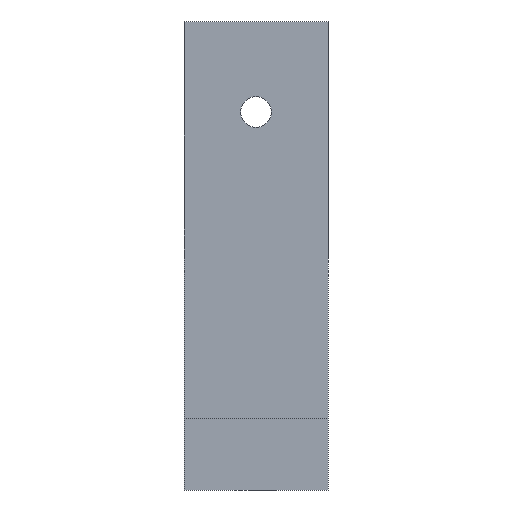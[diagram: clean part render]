
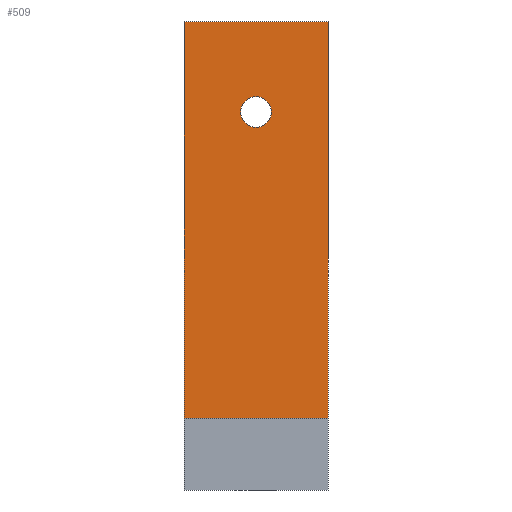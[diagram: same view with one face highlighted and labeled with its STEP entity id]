
A CAD part, front view. The second image highlights one B-rep face of the part: STEP entity #509.
In plain terms, the highlighted planar face has unit normal (0, -1, 0).
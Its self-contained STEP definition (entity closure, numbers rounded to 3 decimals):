
#32 = PLANE('',#33);
#33 = AXIS2_PLACEMENT_3D('',#34,#35,#36);
#34 = CARTESIAN_POINT('',(-8.,-52.8,-87.));
#35 = DIRECTION('',(1.,0.,0.));
#36 = DIRECTION('',(0.,0.,1.));
#113 = VERTEX_POINT('',#114);
#114 = CARTESIAN_POINT('',(-8.,88.,-35.));
#128 = PLANE('',#129);
#129 = AXIS2_PLACEMENT_3D('',#130,#131,#132);
#130 = CARTESIAN_POINT('',(-8.,88.,-35.));
#131 = DIRECTION('',(0.,0.,1.));
#132 = DIRECTION('',(1.,0.,0.));
#140 = EDGE_CURVE('',#141,#113,#143,.T.);
#141 = VERTEX_POINT('',#142);
#142 = CARTESIAN_POINT('',(-8.,88.,-79.));
#143 = SURFACE_CURVE('',#144,(#148,#155),.PCURVE_S1.);
#144 = LINE('',#145,#146);
#145 = CARTESIAN_POINT('',(-8.,88.,-79.));
#146 = VECTOR('',#147,1.);
#147 = DIRECTION('',(0.,0.,1.));
#148 = PCURVE('',#32,#149);
#149 = DEFINITIONAL_REPRESENTATION('',(#150),#154);
#150 = LINE('',#151,#152);
#151 = CARTESIAN_POINT('',(8.,-140.8));
#152 = VECTOR('',#153,1.);
#153 = DIRECTION('',(1.,0.));
#154 = ( GEOMETRIC_REPRESENTATION_CONTEXT(2) 
PARAMETRIC_REPRESENTATION_CONTEXT() REPRESENTATION_CONTEXT('2D SPACE',''
  ) );
#155 = PCURVE('',#156,#161);
#156 = PLANE('',#157);
#157 = AXIS2_PLACEMENT_3D('',#158,#159,#160);
#158 = CARTESIAN_POINT('',(-8.,88.,-79.));
#159 = DIRECTION('',(0.,1.,0.));
#160 = DIRECTION('',(0.,0.,1.));
#161 = DEFINITIONAL_REPRESENTATION('',(#162),#166);
#162 = LINE('',#163,#164);
#163 = CARTESIAN_POINT('',(0.,0.));
#164 = VECTOR('',#165,1.);
#165 = DIRECTION('',(1.,0.));
#166 = ( GEOMETRIC_REPRESENTATION_CONTEXT(2) 
PARAMETRIC_REPRESENTATION_CONTEXT() REPRESENTATION_CONTEXT('2D SPACE',''
  ) );
#182 = PLANE('',#183);
#183 = AXIS2_PLACEMENT_3D('',#184,#185,#186);
#184 = CARTESIAN_POINT('',(-8.,-52.8,-79.));
#185 = DIRECTION('',(0.,0.,1.));
#186 = DIRECTION('',(1.,0.,0.));
#258 = PLANE('',#259);
#259 = AXIS2_PLACEMENT_3D('',#260,#261,#262);
#260 = CARTESIAN_POINT('',(8.,-52.8,-87.));
#261 = DIRECTION('',(1.,0.,0.));
#262 = DIRECTION('',(0.,0.,1.));
#449 = CYLINDRICAL_SURFACE('',#450,1.7);
#450 = AXIS2_PLACEMENT_3D('',#451,#452,#453);
#451 = CARTESIAN_POINT('',(0.,87.,-45.));
#452 = DIRECTION('',(0.,1.,0.));
#453 = DIRECTION('',(0.,-0.,1.));
#465 = EDGE_CURVE('',#113,#466,#468,.T.);
#466 = VERTEX_POINT('',#467);
#467 = CARTESIAN_POINT('',(8.,88.,-35.));
#468 = SURFACE_CURVE('',#469,(#473,#480),.PCURVE_S1.);
#469 = LINE('',#470,#471);
#470 = CARTESIAN_POINT('',(-8.,88.,-35.));
#471 = VECTOR('',#472,1.);
#472 = DIRECTION('',(1.,0.,0.));
#473 = PCURVE('',#128,#474);
#474 = DEFINITIONAL_REPRESENTATION('',(#475),#479);
#475 = LINE('',#476,#477);
#476 = CARTESIAN_POINT('',(0.,0.));
#477 = VECTOR('',#478,1.);
#478 = DIRECTION('',(1.,0.));
#479 = ( GEOMETRIC_REPRESENTATION_CONTEXT(2) 
PARAMETRIC_REPRESENTATION_CONTEXT() REPRESENTATION_CONTEXT('2D SPACE',''
  ) );
#480 = PCURVE('',#156,#481);
#481 = DEFINITIONAL_REPRESENTATION('',(#482),#486);
#482 = LINE('',#483,#484);
#483 = CARTESIAN_POINT('',(44.,0.));
#484 = VECTOR('',#485,1.);
#485 = DIRECTION('',(0.,1.));
#486 = ( GEOMETRIC_REPRESENTATION_CONTEXT(2) 
PARAMETRIC_REPRESENTATION_CONTEXT() REPRESENTATION_CONTEXT('2D SPACE',''
  ) );
#509 = ADVANCED_FACE('',(#510,#558),#156,.F.);
#510 = FACE_BOUND('',#511,.F.);
#511 = EDGE_LOOP('',(#512,#535,#536,#537));
#512 = ORIENTED_EDGE('',*,*,#513,.F.);
#513 = EDGE_CURVE('',#141,#514,#516,.T.);
#514 = VERTEX_POINT('',#515);
#515 = CARTESIAN_POINT('',(8.,88.,-79.));
#516 = SURFACE_CURVE('',#517,(#521,#528),.PCURVE_S1.);
#517 = LINE('',#518,#519);
#518 = CARTESIAN_POINT('',(-8.,88.,-79.));
#519 = VECTOR('',#520,1.);
#520 = DIRECTION('',(1.,0.,0.));
#521 = PCURVE('',#156,#522);
#522 = DEFINITIONAL_REPRESENTATION('',(#523),#527);
#523 = LINE('',#524,#525);
#524 = CARTESIAN_POINT('',(0.,0.));
#525 = VECTOR('',#526,1.);
#526 = DIRECTION('',(0.,1.));
#527 = ( GEOMETRIC_REPRESENTATION_CONTEXT(2) 
PARAMETRIC_REPRESENTATION_CONTEXT() REPRESENTATION_CONTEXT('2D SPACE',''
  ) );
#528 = PCURVE('',#182,#529);
#529 = DEFINITIONAL_REPRESENTATION('',(#530),#534);
#530 = LINE('',#531,#532);
#531 = CARTESIAN_POINT('',(0.,140.8));
#532 = VECTOR('',#533,1.);
#533 = DIRECTION('',(1.,0.));
#534 = ( GEOMETRIC_REPRESENTATION_CONTEXT(2) 
PARAMETRIC_REPRESENTATION_CONTEXT() REPRESENTATION_CONTEXT('2D SPACE',''
  ) );
#535 = ORIENTED_EDGE('',*,*,#140,.T.);
#536 = ORIENTED_EDGE('',*,*,#465,.T.);
#537 = ORIENTED_EDGE('',*,*,#538,.F.);
#538 = EDGE_CURVE('',#514,#466,#539,.T.);
#539 = SURFACE_CURVE('',#540,(#544,#551),.PCURVE_S1.);
#540 = LINE('',#541,#542);
#541 = CARTESIAN_POINT('',(8.,88.,-79.));
#542 = VECTOR('',#543,1.);
#543 = DIRECTION('',(0.,0.,1.));
#544 = PCURVE('',#156,#545);
#545 = DEFINITIONAL_REPRESENTATION('',(#546),#550);
#546 = LINE('',#547,#548);
#547 = CARTESIAN_POINT('',(0.,16.));
#548 = VECTOR('',#549,1.);
#549 = DIRECTION('',(1.,0.));
#550 = ( GEOMETRIC_REPRESENTATION_CONTEXT(2) 
PARAMETRIC_REPRESENTATION_CONTEXT() REPRESENTATION_CONTEXT('2D SPACE',''
  ) );
#551 = PCURVE('',#258,#552);
#552 = DEFINITIONAL_REPRESENTATION('',(#553),#557);
#553 = LINE('',#554,#555);
#554 = CARTESIAN_POINT('',(8.,-140.8));
#555 = VECTOR('',#556,1.);
#556 = DIRECTION('',(1.,0.));
#557 = ( GEOMETRIC_REPRESENTATION_CONTEXT(2) 
PARAMETRIC_REPRESENTATION_CONTEXT() REPRESENTATION_CONTEXT('2D SPACE',''
  ) );
#558 = FACE_BOUND('',#559,.F.);
#559 = EDGE_LOOP('',(#560));
#560 = ORIENTED_EDGE('',*,*,#561,.F.);
#561 = EDGE_CURVE('',#562,#562,#564,.T.);
#562 = VERTEX_POINT('',#563);
#563 = CARTESIAN_POINT('',(0.,88.,-43.3));
#564 = SURFACE_CURVE('',#565,(#570,#577),.PCURVE_S1.);
#565 = CIRCLE('',#566,1.7);
#566 = AXIS2_PLACEMENT_3D('',#567,#568,#569);
#567 = CARTESIAN_POINT('',(0.,88.,-45.));
#568 = DIRECTION('',(0.,1.,0.));
#569 = DIRECTION('',(0.,-0.,1.));
#570 = PCURVE('',#156,#571);
#571 = DEFINITIONAL_REPRESENTATION('',(#572),#576);
#572 = CIRCLE('',#573,1.7);
#573 = AXIS2_PLACEMENT_2D('',#574,#575);
#574 = CARTESIAN_POINT('',(34.,8.));
#575 = DIRECTION('',(1.,0.));
#576 = ( GEOMETRIC_REPRESENTATION_CONTEXT(2) 
PARAMETRIC_REPRESENTATION_CONTEXT() REPRESENTATION_CONTEXT('2D SPACE',''
  ) );
#577 = PCURVE('',#449,#578);
#578 = DEFINITIONAL_REPRESENTATION('',(#579),#583);
#579 = LINE('',#580,#581);
#580 = CARTESIAN_POINT('',(0.,1.));
#581 = VECTOR('',#582,1.);
#582 = DIRECTION('',(1.,0.));
#583 = ( GEOMETRIC_REPRESENTATION_CONTEXT(2) 
PARAMETRIC_REPRESENTATION_CONTEXT() REPRESENTATION_CONTEXT('2D SPACE',''
  ) );
